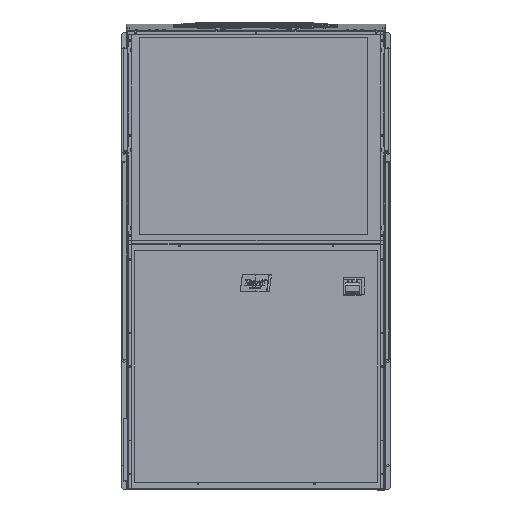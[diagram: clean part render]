
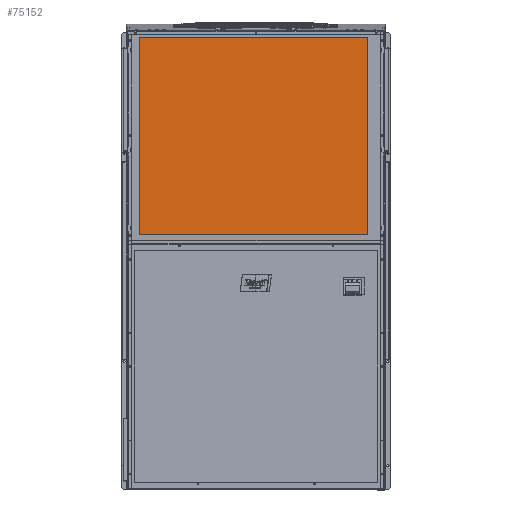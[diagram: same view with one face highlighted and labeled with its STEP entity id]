
A CAD part, top view. The second image highlights one B-rep face of the part: STEP entity #75152.
In plain terms, the highlighted planar face has unit normal (0, 0, 1).
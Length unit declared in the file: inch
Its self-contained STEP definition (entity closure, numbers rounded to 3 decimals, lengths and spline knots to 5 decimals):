
#588 = CARTESIAN_POINT ( 'NONE',  ( -35.96969, 44.48813, 0.028 ) ) ;
#2539 = CARTESIAN_POINT ( 'NONE',  ( -23.54852, 12.36313, 0.028 ) ) ;
#3396 = EDGE_CURVE ( 'NONE', #137187, #13188, #10495, .T. ) ;
#5650 = CARTESIAN_POINT ( 'NONE',  ( 1.29381, 12.36313, 0.028 ) ) ;
#10342 = CARTESIAN_POINT ( 'NONE',  ( 1.29381, 23.07147, 0.028 ) ) ;
#10495 = B_SPLINE_CURVE_WITH_KNOTS ( 'NONE', 3,
 ( #86960, #2539, #130614, #22245 ),
 .UNSPECIFIED., .F., .F.,
 ( 4, 4 ),
 ( 0., 1. ),
 .UNSPECIFIED. ) ;
#13188 = VERTEX_POINT ( 'NONE', #26857 ) ;
#20992 = VERTEX_POINT ( 'NONE', #66116 ) ;
#21016 = CARTESIAN_POINT ( 'NONE',  ( 0., 0., 0.028 ) ) ;
#22245 = CARTESIAN_POINT ( 'NONE',  ( 1.29381, 12.36313, 0.028 ) ) ;
#26857 = CARTESIAN_POINT ( 'NONE',  ( 1.29381, 12.36313, 0.028 ) ) ;
#27127 = AXIS2_PLACEMENT_3D ( 'NONE', #21016, #106908, #128706 ) ;
#45817 = EDGE_CURVE ( 'NONE', #107390, #137187, #47153, .T. ) ;
#47153 = B_SPLINE_CURVE_WITH_KNOTS ( 'NONE', 3,
 ( #115635, #91025, #48082, #123436 ),
 .UNSPECIFIED., .F., .F.,
 ( 4, 4 ),
 ( 0., 1. ),
 .UNSPECIFIED. ) ;
#48082 = CARTESIAN_POINT ( 'NONE',  ( -35.96969, 23.07147, 0.028 ) ) ;
#53374 = PLANE ( 'NONE',  #27127 ) ;
#60073 = EDGE_CURVE ( 'NONE', #20992, #107390, #90343, .T. ) ;
#63777 = CARTESIAN_POINT ( 'NONE',  ( 1.29381, 33.7798, 0.028 ) ) ;
#63849 = EDGE_LOOP ( 'NONE', ( #94886, #99392, #104486, #71289 ) ) ;
#66116 = CARTESIAN_POINT ( 'NONE',  ( 1.29381, 44.48813, 0.028 ) ) ;
#71289 = ORIENTED_EDGE ( 'NONE', *, *, #60073, .T. ) ;
#74105 = CARTESIAN_POINT ( 'NONE',  ( -35.96969, 44.48813, 0.028 ) ) ;
#75152 = ADVANCED_FACE ( 'NONE', ( #85048 ), #53374, .T. ) ;
#85048 = FACE_OUTER_BOUND ( 'NONE', #63849, .T. ) ;
#86960 = CARTESIAN_POINT ( 'NONE',  ( -35.96969, 12.36313, 0.028 ) ) ;
#90343 = B_SPLINE_CURVE_WITH_KNOTS ( 'NONE', 3,
 ( #136829, #124848, #136141, #74105 ),
 .UNSPECIFIED., .F., .F.,
 ( 4, 4 ),
 ( 0., 1. ),
 .UNSPECIFIED. ) ;
#91025 = CARTESIAN_POINT ( 'NONE',  ( -35.96969, 33.7798, 0.028 ) ) ;
#94886 = ORIENTED_EDGE ( 'NONE', *, *, #45817, .T. ) ;
#99392 = ORIENTED_EDGE ( 'NONE', *, *, #3396, .T. ) ;
#104133 = CARTESIAN_POINT ( 'NONE',  ( 1.29381, 44.48813, 0.028 ) ) ;
#104486 = ORIENTED_EDGE ( 'NONE', *, *, #109563, .T. ) ;
#105731 = B_SPLINE_CURVE_WITH_KNOTS ( 'NONE', 3,
 ( #5650, #10342, #63777, #104133 ),
 .UNSPECIFIED., .F., .F.,
 ( 4, 4 ),
 ( 0., 1. ),
 .UNSPECIFIED. ) ;
#106908 = DIRECTION ( 'NONE',  ( 0., 0., 1. ) ) ;
#107390 = VERTEX_POINT ( 'NONE', #588 ) ;
#109563 = EDGE_CURVE ( 'NONE', #13188, #20992, #105731, .T. ) ;
#115635 = CARTESIAN_POINT ( 'NONE',  ( -35.96969, 44.48813, 0.028 ) ) ;
#123436 = CARTESIAN_POINT ( 'NONE',  ( -35.96969, 12.36313, 0.028 ) ) ;
#124848 = CARTESIAN_POINT ( 'NONE',  ( -11.12735, 44.48813, 0.028 ) ) ;
#128706 = DIRECTION ( 'NONE',  ( 1., 0., 0. ) ) ;
#130614 = CARTESIAN_POINT ( 'NONE',  ( -11.12735, 12.36313, 0.028 ) ) ;
#136141 = CARTESIAN_POINT ( 'NONE',  ( -23.54852, 44.48813, 0.028 ) ) ;
#136829 = CARTESIAN_POINT ( 'NONE',  ( 1.29381, 44.48813, 0.028 ) ) ;
#137187 = VERTEX_POINT ( 'NONE', #137213 ) ;
#137213 = CARTESIAN_POINT ( 'NONE',  ( -35.96969, 12.36313, 0.028 ) ) ;
